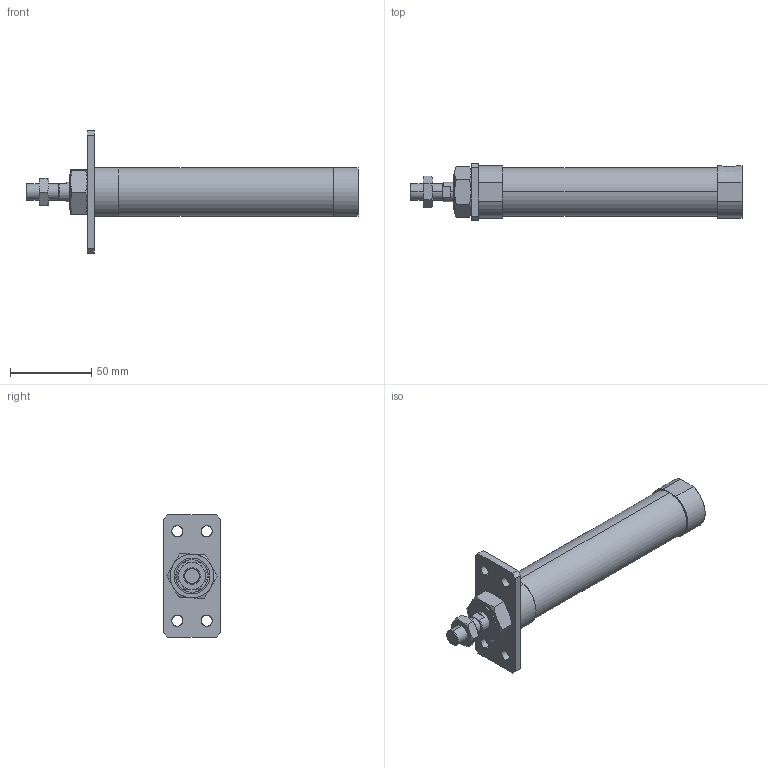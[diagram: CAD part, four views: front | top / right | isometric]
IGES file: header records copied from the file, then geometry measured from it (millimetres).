
Start section: SolidWorks IGES file using analytic representation for surfaces
Global section: file name: C:\Users\Toshiba\Desktop\JGND1-25-50-A.IGS; native system: SolidWorks 2014; preprocessor: SolidWorks 2014; author: Toshiba; date: 160804.101821; units: millimetre
Bounding box: 204 x 35 x 75 mm (x, y, z)
Surface area: 28511.6 mm2 (no closed solid volume)
Topology: 0 solids, 0 shells, 105 faces, 1918 edges, 1916 vertices
Faces by surface type: bspline 69, revolution 36
